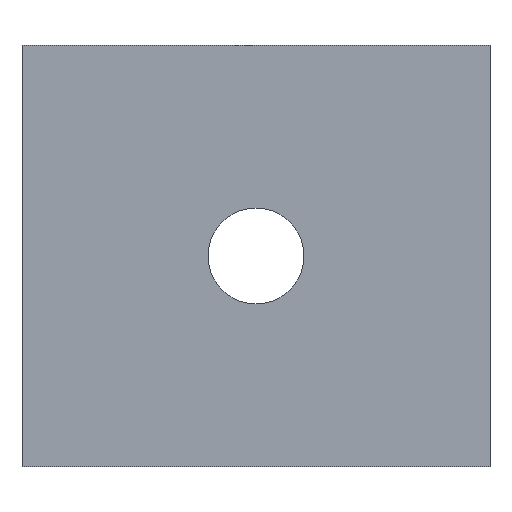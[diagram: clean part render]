
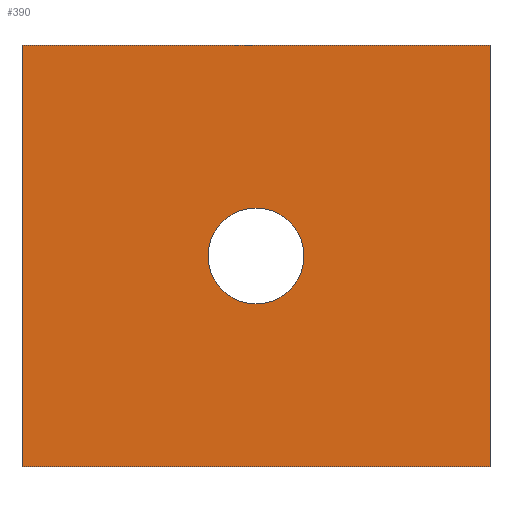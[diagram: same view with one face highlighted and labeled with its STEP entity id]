
A CAD part, front view. The second image highlights one B-rep face of the part: STEP entity #390.
In plain terms, the highlighted planar face has unit normal (0, -1, 0).
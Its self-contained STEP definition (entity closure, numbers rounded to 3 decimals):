
#12 = ORIENTED_EDGE ( 'NONE', *, *, #306, .F. ) ;
#15 = VERTEX_POINT ( 'NONE', #245 ) ;
#18 = DIRECTION ( 'NONE',  ( 1., 0., 0. ) ) ;
#29 = DIRECTION ( 'NONE',  ( 0., 0., -1. ) ) ;
#33 = VERTEX_POINT ( 'NONE', #426 ) ;
#43 = CARTESIAN_POINT ( 'NONE',  ( -1., -17., -18. ) ) ;
#47 = EDGE_CURVE ( 'NONE', #15, #215, #258, .T. ) ;
#49 = CARTESIAN_POINT ( 'NONE',  ( -21., -17., -36. ) ) ;
#65 = VERTEX_POINT ( 'NONE', #151 ) ;
#66 = VECTOR ( 'NONE', #18, 1000. ) ;
#69 = DIRECTION ( 'NONE',  ( 0., 0., 1. ) ) ;
#70 = ORIENTED_EDGE ( 'NONE', *, *, #384, .T. ) ;
#75 = EDGE_LOOP ( 'NONE', ( #434, #12 ) ) ;
#88 = ORIENTED_EDGE ( 'NONE', *, *, #315, .F. ) ;
#97 = CIRCLE ( 'NONE', #190, 4.1 ) ;
#118 = EDGE_LOOP ( 'NONE', ( #88, #311, #70, #209 ) ) ;
#130 = FACE_BOUND ( 'NONE', #75, .T. ) ;
#135 = CARTESIAN_POINT ( 'NONE',  ( -21., -17., 0. ) ) ;
#139 = LINE ( 'NONE', #49, #351 ) ;
#143 = EDGE_CURVE ( 'NONE', #33, #65, #297, .T. ) ;
#147 = CARTESIAN_POINT ( 'NONE',  ( -1., -17., -13.9 ) ) ;
#151 = CARTESIAN_POINT ( 'NONE',  ( 19., -17., 0. ) ) ;
#167 = DIRECTION ( 'NONE',  ( 0., -1., 0. ) ) ;
#179 = AXIS2_PLACEMENT_3D ( 'NONE', #415, #447, #274 ) ;
#187 = VERTEX_POINT ( 'NONE', #257 ) ;
#190 = AXIS2_PLACEMENT_3D ( 'NONE', #43, #349, #329 ) ;
#209 = ORIENTED_EDGE ( 'NONE', *, *, #143, .T. ) ;
#214 = VERTEX_POINT ( 'NONE', #135 ) ;
#215 = VERTEX_POINT ( 'NONE', #147 ) ;
#225 = CARTESIAN_POINT ( 'NONE',  ( -21., -17., 0. ) ) ;
#245 = CARTESIAN_POINT ( 'NONE',  ( -1., -17., -22.1 ) ) ;
#257 = CARTESIAN_POINT ( 'NONE',  ( -21., -17., -36. ) ) ;
#258 = CIRCLE ( 'NONE', #429, 4.1 ) ;
#266 = LINE ( 'NONE', #301, #66 ) ;
#271 = DIRECTION ( 'NONE',  ( 0., 0., 1. ) ) ;
#273 = FACE_OUTER_BOUND ( 'NONE', #118, .T. ) ;
#274 = DIRECTION ( 'NONE',  ( 0., 0., -1. ) ) ;
#285 = DIRECTION ( 'NONE',  ( 1., 0., 0. ) ) ;
#293 = CARTESIAN_POINT ( 'NONE',  ( -1., -17., -18. ) ) ;
#297 = LINE ( 'NONE', #444, #374 ) ;
#301 = CARTESIAN_POINT ( 'NONE',  ( -21., -17., -36. ) ) ;
#306 = EDGE_CURVE ( 'NONE', #215, #15, #97, .T. ) ;
#311 = ORIENTED_EDGE ( 'NONE', *, *, #375, .F. ) ;
#315 = EDGE_CURVE ( 'NONE', #214, #65, #407, .T. ) ;
#329 = DIRECTION ( 'NONE',  ( 0., 0., -1. ) ) ;
#339 = PLANE ( 'NONE',  #179 ) ;
#349 = DIRECTION ( 'NONE',  ( 0., -1., 0. ) ) ;
#351 = VECTOR ( 'NONE', #271, 1000. ) ;
#358 = VECTOR ( 'NONE', #285, 1000. ) ;
#374 = VECTOR ( 'NONE', #69, 1000. ) ;
#375 = EDGE_CURVE ( 'NONE', #187, #214, #139, .T. ) ;
#384 = EDGE_CURVE ( 'NONE', #187, #33, #266, .T. ) ;
#390 = ADVANCED_FACE ( 'NONE', ( #130, #273 ), #339, .T. ) ;
#407 = LINE ( 'NONE', #225, #358 ) ;
#415 = CARTESIAN_POINT ( 'NONE',  ( -21., -17., -36. ) ) ;
#426 = CARTESIAN_POINT ( 'NONE',  ( 19., -17., -36. ) ) ;
#429 = AXIS2_PLACEMENT_3D ( 'NONE', #293, #167, #29 ) ;
#434 = ORIENTED_EDGE ( 'NONE', *, *, #47, .F. ) ;
#444 = CARTESIAN_POINT ( 'NONE',  ( 19., -17., -36. ) ) ;
#447 = DIRECTION ( 'NONE',  ( 0., -1., 0. ) ) ;
